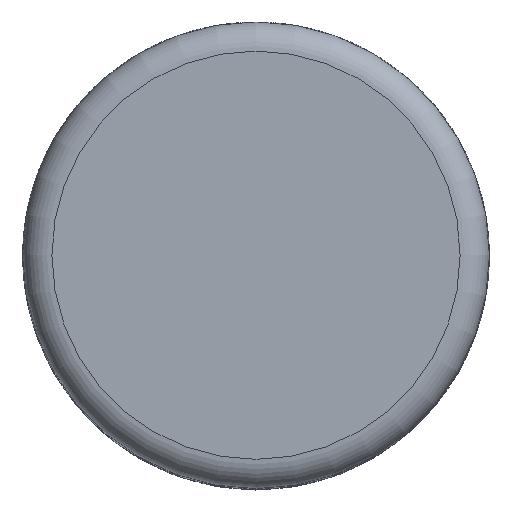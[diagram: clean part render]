
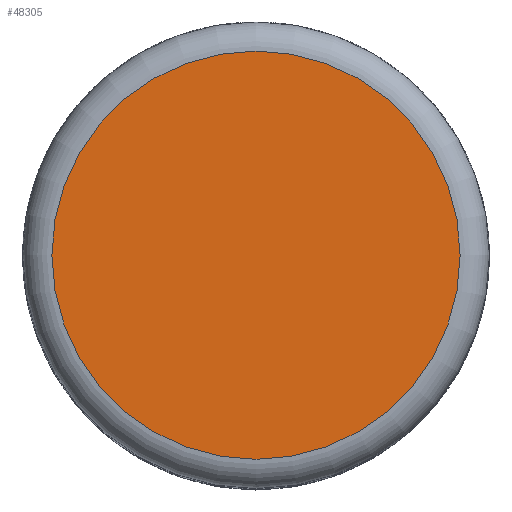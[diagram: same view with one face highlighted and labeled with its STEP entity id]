
A CAD part, top view. The second image highlights one B-rep face of the part: STEP entity #48305.
In plain terms, the highlighted planar face has unit normal (0, 0, 1).
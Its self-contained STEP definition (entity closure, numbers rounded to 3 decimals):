
#111 = TOROIDAL_SURFACE('',#112,7.,1.);
#112 = AXIS2_PLACEMENT_3D('',#113,#114,#115);
#113 = CARTESIAN_POINT('',(0.,0.,29.));
#114 = DIRECTION('',(0.,0.,1.));
#115 = DIRECTION('',(1.,0.,-0.));
#24301 = VERTEX_POINT('',#24302);
#24302 = CARTESIAN_POINT('',(7.,0.,30.));
#24324 = EDGE_CURVE('',#24301,#24301,#24325,.T.);
#24325 = SURFACE_CURVE('',#24326,(#24331,#24338),.PCURVE_S1.);
#24326 = CIRCLE('',#24327,7.);
#24327 = AXIS2_PLACEMENT_3D('',#24328,#24329,#24330);
#24328 = CARTESIAN_POINT('',(0.,0.,30.));
#24329 = DIRECTION('',(0.,0.,1.));
#24330 = DIRECTION('',(1.,0.,-0.));
#24331 = PCURVE('',#111,#24332);
#24332 = DEFINITIONAL_REPRESENTATION('',(#24333),#24337);
#24333 = LINE('',#24334,#24335);
#24334 = CARTESIAN_POINT('',(0.,1.571));
#24335 = VECTOR('',#24336,1.);
#24336 = DIRECTION('',(1.,0.));
#24337 = ( GEOMETRIC_REPRESENTATION_CONTEXT(2) 
PARAMETRIC_REPRESENTATION_CONTEXT() REPRESENTATION_CONTEXT('2D SPACE',''
  ) );
#24338 = PCURVE('',#24339,#24344);
#24339 = PLANE('',#24340);
#24340 = AXIS2_PLACEMENT_3D('',#24341,#24342,#24343);
#24341 = CARTESIAN_POINT('',(0.,0.,30.));
#24342 = DIRECTION('',(0.,0.,1.));
#24343 = DIRECTION('',(1.,0.,-0.));
#24344 = DEFINITIONAL_REPRESENTATION('',(#24345),#24349);
#24345 = CIRCLE('',#24346,7.);
#24346 = AXIS2_PLACEMENT_2D('',#24347,#24348);
#24347 = CARTESIAN_POINT('',(0.,0.));
#24348 = DIRECTION('',(1.,0.));
#24349 = ( GEOMETRIC_REPRESENTATION_CONTEXT(2) 
PARAMETRIC_REPRESENTATION_CONTEXT() REPRESENTATION_CONTEXT('2D SPACE',''
  ) );
#48305 = ADVANCED_FACE('',(#48306),#24339,.T.);
#48306 = FACE_BOUND('',#48307,.T.);
#48307 = EDGE_LOOP('',(#48308));
#48308 = ORIENTED_EDGE('',*,*,#24324,.T.);
